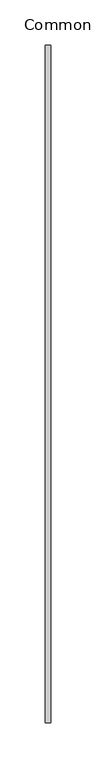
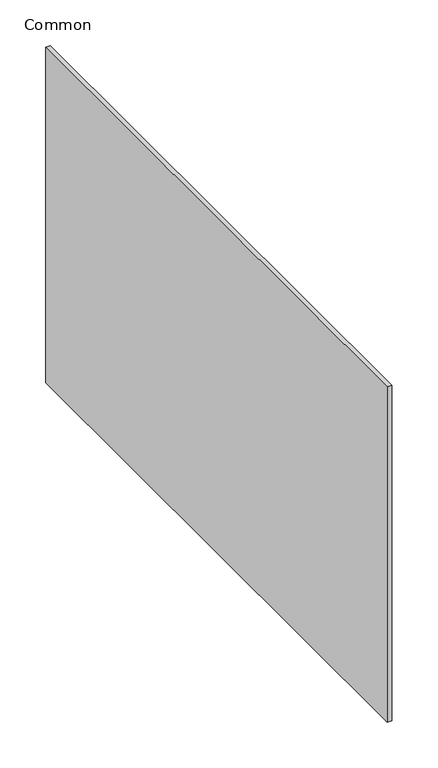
"""IFC4 building model written with IfcOpenShell, lengths in millimetres: duct fitting geometry, 071_角型ユニオン : Common."""

from ifc_helpers import new_model, si_unit, frame, origin, place, context, project, spatial, polyline, outline, extrude, source, transform, mapped, element, save


def common_e4bdf27b(model_context):
    return source(origin(), model_context, "Body", "SweptSolid", [
        extrude(outline(polyline([(3.0, 375.0), (3.0, -375.0), (-3.0, -375.0), (-3.0, 375.0), (3.0, 375.0)])), frame((0.0, 0.0, -225.0), z_axis=(0.0, 0.0, 1.0), x_axis=(1.0, 0.0, 0.0)), (0.0, 0.0, 1.0), 450.0),
    ])


if __name__ == "__main__":
    model = new_model("IFC4")
    model_context = context("Model", 3, world=origin())
    ifc_project = project(units=[si_unit("LENGTHUNIT", "METRE", prefix="MILLI")], contexts=[model_context])
    site = spatial("IfcSite", under=ifc_project)
    building = spatial("IfcBuilding", under=site)
    placement = place(None, origin())
    common_shape = common_e4bdf27b(model_context)
    element("IfcDuctFitting", 1, ObjectType="071_角型ユニオン : Common", at=placement, inside=building, context=model_context, shape_type="MappedRepresentation", body=[
        mapped(common_shape, transform((0.0, 0.0, 0.0), x_axis=(1.0, 0.0, 0.0), y_axis=(0.0, 1.0, 0.0), z_axis=(0.0, 0.0, 1.0))),
    ])
    save(model, "model.ifc")
